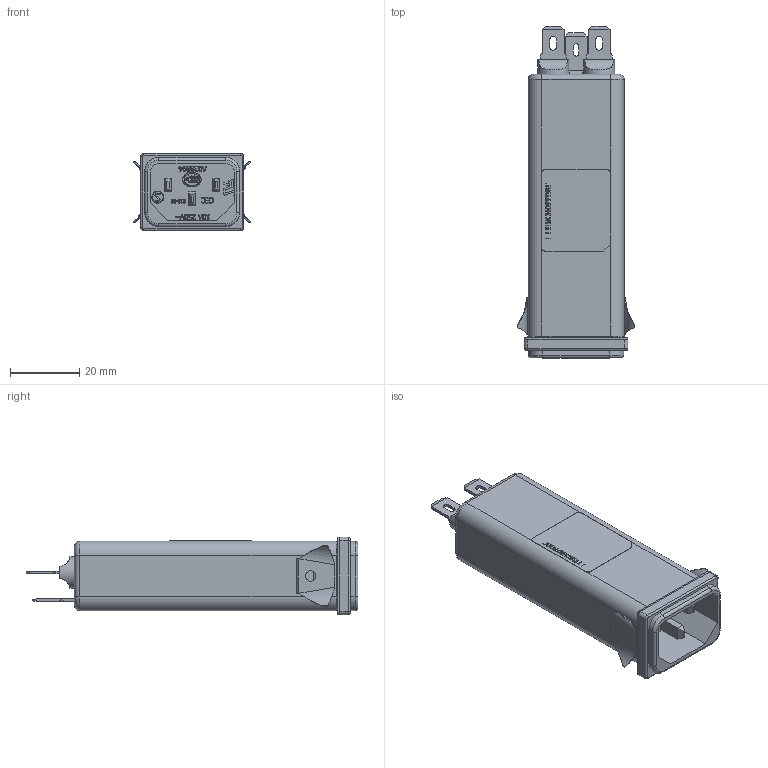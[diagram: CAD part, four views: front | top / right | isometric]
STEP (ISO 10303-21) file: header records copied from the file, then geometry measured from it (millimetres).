
FILE_DESCRIPTION(/* description */ ('naming raw material'),/* implementation_level */ '2;1');
FILE_NAME(/* name */ 'C:\SapWorkDir\Inventor\P01\ConvertTempPath\193011_IPT_000.ipt.stp',/* time_stamp */ '2018-07-02T17:06:50+07:00',/* author */ ('Eakchai.Yodchai'),/* organization */ ('Schaffner Thailand Ltd.'),/* preprocessor_version */ 'ST-DEVELOPER v16.5',/* originating_system */ 'Autodesk Inventor 2017',/* authorisation */ '');
FILE_SCHEMA (('AUTOMOTIVE_DESIGN { 1 0 10303 214 3 1 1 }'));
Products named in the file (1): 193011_IPT_000
Bounding box: 33.94 x 96 x 22.4 mm (x, y, z)
Volume: 12574.7 mm3; surface area: 31959.2 mm2
Topology: 1 solids, 1 shells, 1949 faces, 5469 edges, 3570 vertices
Faces by surface type: plane 1399, bspline 351, cylinder 175, torus 24
Full cylindrical faces by diameter (mm): 3 x2, 3.15 x1, 3.5 x1, 9 x2, 9.5 x2
Entity records: 66711 total; most frequent: CARTESIAN_POINT 16451, ORIENTED_EDGE 10924, DIRECTION 8362, EDGE_CURVE 5459, LINE 4366, VECTOR 4366, VERTEX_POINT 3568, EDGE_LOOP 2092
